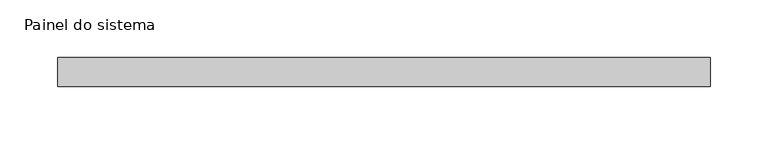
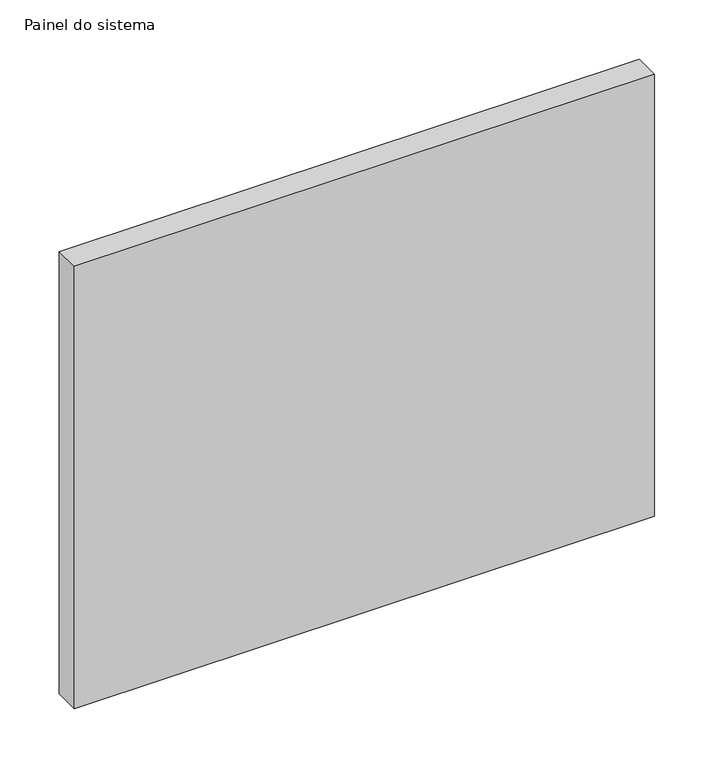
"""IFC4 building model written with IfcOpenShell, lengths in millimetres: plate geometry, Painel do sistema : Envidraçado."""

from ifc_helpers import new_model, si_unit, origin, origin_with_axes, place, context, project, spatial, polyline, outline, extrude, source, transform, mapped, element, save


def painel_do_sistema_18f7f7d1(model_context):
    return source(origin(), model_context, "Body", "SweptSolid", [
        extrude(outline(polyline([(282.5, 24.5), (-282.5, 24.5), (-282.5, 49.5), (282.5, 49.5), (282.5, 24.5)])), origin_with_axes(), (0.0, 0.0, 1.0), 455.0),
    ])


if __name__ == "__main__":
    model = new_model("IFC4")
    model_context = context("Model", 3, world=origin())
    ifc_project = project(units=[si_unit("LENGTHUNIT", "METRE", prefix="MILLI")], contexts=[model_context])
    site = spatial("IfcSite", under=ifc_project)
    building = spatial("IfcBuilding", under=site)
    placement = place(None, origin())
    painel_do_sistema_shape = painel_do_sistema_18f7f7d1(model_context)
    element("IfcPlate", 1, ObjectType="Painel do sistema : Envidraçado", at=placement, inside=building, context=model_context, shape_type="MappedRepresentation", body=[
        mapped(painel_do_sistema_shape, transform((0.0, 0.0, 0.0), x_axis=(1.0, 0.0, 0.0), y_axis=(0.0, 1.0, 0.0), z_axis=(0.0, 0.0, 1.0))),
    ])
    save(model, "model.ifc")
